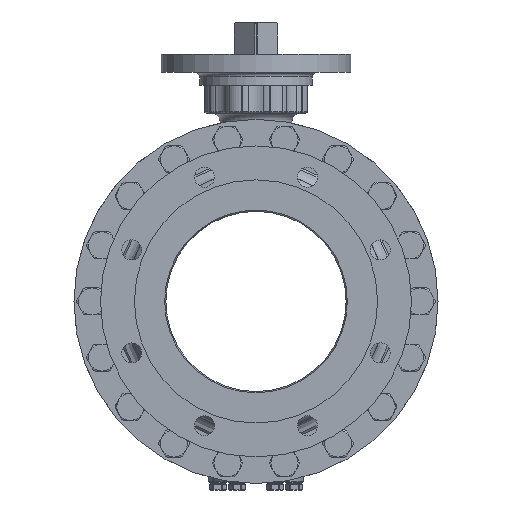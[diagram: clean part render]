
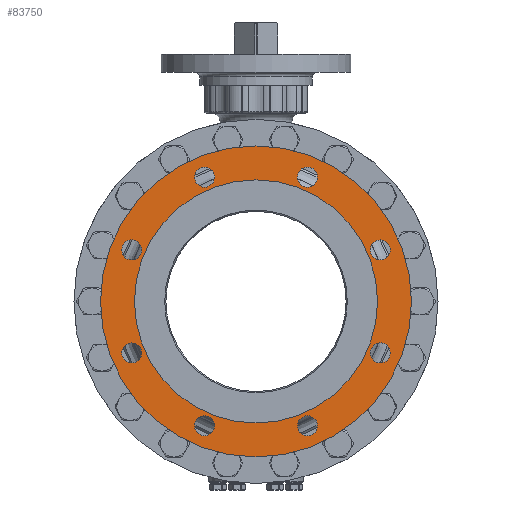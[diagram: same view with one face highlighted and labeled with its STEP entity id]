
A CAD part, left-side view. The second image highlights one B-rep face of the part: STEP entity #83750.
In plain terms, the highlighted planar face has unit normal (-1, 0, 0).
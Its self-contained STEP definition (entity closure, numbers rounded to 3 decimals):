
#10210=CARTESIAN_POINT('',(-227.,0.,0.));
#10211=DIRECTION('',(1.,0.,0.));
#10212=DIRECTION('',(0.,0.,1.));
#10213=AXIS2_PLACEMENT_3D('',#10210,#10211,#10212);
#10215=CARTESIAN_POINT('',(-227.,0.,0.));
#10216=DIRECTION('',(-1.,0.,0.));
#10217=DIRECTION('',(0.,0.,1.));
#10218=AXIS2_PLACEMENT_3D('',#10215,#10216,#10217);
#10220=CARTESIAN_POINT('',(-227.,0.,0.));
#10221=DIRECTION('',(1.,0.,0.));
#10222=DIRECTION('',(0.,0.,1.));
#10223=AXIS2_PLACEMENT_3D('',#10220,#10221,#10222);
#10225=CARTESIAN_POINT('',(-227.,0.,0.));
#10226=DIRECTION('',(-1.,0.,0.));
#10227=DIRECTION('',(0.,0.,1.));
#10228=AXIS2_PLACEMENT_3D('',#10225,#10226,#10227);
#10230=CARTESIAN_POINT('',(-227.,57.116,137.889));
#10231=DIRECTION('',(-1.,0.,0.));
#10232=DIRECTION('',(0.,-1.,0.));
#10233=AXIS2_PLACEMENT_3D('',#10230,#10231,#10232);
#10235=CARTESIAN_POINT('',(-227.,57.116,137.889));
#10236=DIRECTION('',(-1.,0.,0.));
#10237=DIRECTION('',(0.,1.,0.));
#10238=AXIS2_PLACEMENT_3D('',#10235,#10236,#10237);
#10240=CARTESIAN_POINT('',(-227.,137.889,57.116));
#10241=DIRECTION('',(-1.,0.,0.));
#10242=DIRECTION('',(0.,-0.707,0.707));
#10243=AXIS2_PLACEMENT_3D('',#10240,#10241,#10242);
#10245=CARTESIAN_POINT('',(-227.,137.889,57.116));
#10246=DIRECTION('',(-1.,0.,0.));
#10247=DIRECTION('',(0.,0.707,-0.707));
#10248=AXIS2_PLACEMENT_3D('',#10245,#10246,#10247);
#10250=CARTESIAN_POINT('',(-227.,137.889,-57.116));
#10251=DIRECTION('',(-1.,0.,0.));
#10252=DIRECTION('',(0.,0.,1.));
#10253=AXIS2_PLACEMENT_3D('',#10250,#10251,#10252);
#10255=CARTESIAN_POINT('',(-227.,137.889,-57.116));
#10256=DIRECTION('',(-1.,0.,0.));
#10257=DIRECTION('',(0.,0.,-1.));
#10258=AXIS2_PLACEMENT_3D('',#10255,#10256,#10257);
#10260=CARTESIAN_POINT('',(-227.,57.116,-137.889));
#10261=DIRECTION('',(-1.,0.,0.));
#10262=DIRECTION('',(0.,0.707,0.707));
#10263=AXIS2_PLACEMENT_3D('',#10260,#10261,#10262);
#10265=CARTESIAN_POINT('',(-227.,57.116,-137.889));
#10266=DIRECTION('',(-1.,0.,0.));
#10267=DIRECTION('',(0.,-0.707,-0.707));
#10268=AXIS2_PLACEMENT_3D('',#10265,#10266,#10267);
#10270=CARTESIAN_POINT('',(-227.,-57.116,-137.889));
#10271=DIRECTION('',(-1.,0.,0.));
#10272=DIRECTION('',(0.,1.,0.));
#10273=AXIS2_PLACEMENT_3D('',#10270,#10271,#10272);
#10275=CARTESIAN_POINT('',(-227.,-57.116,-137.889));
#10276=DIRECTION('',(-1.,0.,0.));
#10277=DIRECTION('',(0.,-1.,0.));
#10278=AXIS2_PLACEMENT_3D('',#10275,#10276,#10277);
#10280=CARTESIAN_POINT('',(-227.,-137.889,-57.116));
#10281=DIRECTION('',(-1.,0.,0.));
#10282=DIRECTION('',(0.,0.707,-0.707));
#10283=AXIS2_PLACEMENT_3D('',#10280,#10281,#10282);
#10285=CARTESIAN_POINT('',(-227.,-137.889,-57.116));
#10286=DIRECTION('',(-1.,0.,0.));
#10287=DIRECTION('',(0.,-0.707,0.707));
#10288=AXIS2_PLACEMENT_3D('',#10285,#10286,#10287);
#10290=CARTESIAN_POINT('',(-227.,-137.889,57.116));
#10291=DIRECTION('',(-1.,0.,0.));
#10292=DIRECTION('',(0.,0.,-1.));
#10293=AXIS2_PLACEMENT_3D('',#10290,#10291,#10292);
#10295=CARTESIAN_POINT('',(-227.,-137.889,57.116));
#10296=DIRECTION('',(-1.,0.,0.));
#10297=DIRECTION('',(0.,0.,1.));
#10298=AXIS2_PLACEMENT_3D('',#10295,#10296,#10297);
#10300=CARTESIAN_POINT('',(-227.,-57.116,137.889));
#10301=DIRECTION('',(-1.,0.,0.));
#10302=DIRECTION('',(0.,-0.707,-0.707));
#10303=AXIS2_PLACEMENT_3D('',#10300,#10301,#10302);
#10305=CARTESIAN_POINT('',(-227.,-57.116,137.889));
#10306=DIRECTION('',(-1.,0.,0.));
#10307=DIRECTION('',(0.,0.707,0.707));
#10308=AXIS2_PLACEMENT_3D('',#10305,#10306,#10307);
#59501=CARTESIAN_POINT('',(-227.,0.,172.5));
#59503=VERTEX_POINT('',#59501);
#59509=CARTESIAN_POINT('',(-227.,0.,-172.5));
#59511=VERTEX_POINT('',#59509);
#59541=CARTESIAN_POINT('',(-227.,45.966,137.889));
#59542=VERTEX_POINT('',#59541);
#59543=CARTESIAN_POINT('',(-227.,68.266,137.889));
#59544=VERTEX_POINT('',#59543);
#59549=CARTESIAN_POINT('',(-227.,130.005,65.));
#59550=VERTEX_POINT('',#59549);
#59551=CARTESIAN_POINT('',(-227.,145.773,49.231));
#59552=VERTEX_POINT('',#59551);
#59557=CARTESIAN_POINT('',(-227.,137.889,-45.966));
#59558=VERTEX_POINT('',#59557);
#59559=CARTESIAN_POINT('',(-227.,137.889,-68.266));
#59560=VERTEX_POINT('',#59559);
#59565=CARTESIAN_POINT('',(-227.,65.,-130.005));
#59566=VERTEX_POINT('',#59565);
#59567=CARTESIAN_POINT('',(-227.,49.231,-145.773));
#59568=VERTEX_POINT('',#59567);
#59573=CARTESIAN_POINT('',(-227.,-45.966,-137.889));
#59574=VERTEX_POINT('',#59573);
#59575=CARTESIAN_POINT('',(-227.,-68.266,-137.889));
#59576=VERTEX_POINT('',#59575);
#59581=CARTESIAN_POINT('',(-227.,-130.005,-65.));
#59582=VERTEX_POINT('',#59581);
#59583=CARTESIAN_POINT('',(-227.,-145.773,-49.231));
#59584=VERTEX_POINT('',#59583);
#59589=CARTESIAN_POINT('',(-227.,-137.889,45.966));
#59590=VERTEX_POINT('',#59589);
#59591=CARTESIAN_POINT('',(-227.,-137.889,68.266));
#59592=VERTEX_POINT('',#59591);
#59597=CARTESIAN_POINT('',(-227.,-65.,130.005));
#59598=VERTEX_POINT('',#59597);
#59599=CARTESIAN_POINT('',(-227.,-49.231,145.773));
#59600=VERTEX_POINT('',#59599);
#59602=CARTESIAN_POINT('',(-227.,0.,134.85));
#59604=VERTEX_POINT('',#59602);
#59606=CARTESIAN_POINT('',(-227.,0.,-134.85));
#59608=VERTEX_POINT('',#59606);
#83687=CARTESIAN_POINT('',(-227.,0.,0.));
#83688=DIRECTION('',(-1.,0.,0.));
#83689=DIRECTION('',(0.,0.,-1.));
#83690=AXIS2_PLACEMENT_3D('',#83687,#83688,#83689);
#83691=PLANE('',#83690);
#83692=ORIENTED_EDGE('',*,*,#83680,.F.);
#83693=ORIENTED_EDGE('',*,*,#83669,.T.);
#83694=EDGE_LOOP('',(#83692,#83693));
#83695=FACE_OUTER_BOUND('',#83694,.F.);
#83697=ORIENTED_EDGE('',*,*,#83696,.F.);
#83699=ORIENTED_EDGE('',*,*,#83698,.T.);
#83700=EDGE_LOOP('',(#83697,#83699));
#83701=FACE_BOUND('',#83700,.F.);
#83703=ORIENTED_EDGE('',*,*,#83702,.T.);
#83705=ORIENTED_EDGE('',*,*,#83704,.T.);
#83706=EDGE_LOOP('',(#83703,#83705));
#83707=FACE_BOUND('',#83706,.F.);
#83709=ORIENTED_EDGE('',*,*,#83708,.T.);
#83711=ORIENTED_EDGE('',*,*,#83710,.T.);
#83712=EDGE_LOOP('',(#83709,#83711));
#83713=FACE_BOUND('',#83712,.F.);
#83715=ORIENTED_EDGE('',*,*,#83714,.T.);
#83717=ORIENTED_EDGE('',*,*,#83716,.T.);
#83718=EDGE_LOOP('',(#83715,#83717));
#83719=FACE_BOUND('',#83718,.F.);
#83721=ORIENTED_EDGE('',*,*,#83720,.T.);
#83723=ORIENTED_EDGE('',*,*,#83722,.T.);
#83724=EDGE_LOOP('',(#83721,#83723));
#83725=FACE_BOUND('',#83724,.F.);
#83727=ORIENTED_EDGE('',*,*,#83726,.T.);
#83729=ORIENTED_EDGE('',*,*,#83728,.T.);
#83730=EDGE_LOOP('',(#83727,#83729));
#83731=FACE_BOUND('',#83730,.F.);
#83733=ORIENTED_EDGE('',*,*,#83732,.T.);
#83735=ORIENTED_EDGE('',*,*,#83734,.T.);
#83736=EDGE_LOOP('',(#83733,#83735));
#83737=FACE_BOUND('',#83736,.F.);
#83739=ORIENTED_EDGE('',*,*,#83738,.T.);
#83741=ORIENTED_EDGE('',*,*,#83740,.T.);
#83742=EDGE_LOOP('',(#83739,#83741));
#83743=FACE_BOUND('',#83742,.F.);
#83745=ORIENTED_EDGE('',*,*,#83744,.T.);
#83747=ORIENTED_EDGE('',*,*,#83746,.T.);
#83748=EDGE_LOOP('',(#83745,#83747));
#83749=FACE_BOUND('',#83748,.F.);
#83750=ADVANCED_FACE('',(#83695,#83701,#83707,#83713,#83719,#83725,#83731,
#83737,#83743,#83749),#83691,.T.);
#10214=CIRCLE('',#10213,172.5);
#10219=CIRCLE('',#10218,172.5);
#10224=CIRCLE('',#10223,134.85);
#10229=CIRCLE('',#10228,134.85);
#10234=CIRCLE('',#10233,11.15);
#10239=CIRCLE('',#10238,11.15);
#10244=CIRCLE('',#10243,11.15);
#10249=CIRCLE('',#10248,11.15);
#10254=CIRCLE('',#10253,11.15);
#10259=CIRCLE('',#10258,11.15);
#10264=CIRCLE('',#10263,11.15);
#10269=CIRCLE('',#10268,11.15);
#10274=CIRCLE('',#10273,11.15);
#10279=CIRCLE('',#10278,11.15);
#10284=CIRCLE('',#10283,11.15);
#10289=CIRCLE('',#10288,11.15);
#10294=CIRCLE('',#10293,11.15);
#10299=CIRCLE('',#10298,11.15);
#10304=CIRCLE('',#10303,11.15);
#10309=CIRCLE('',#10308,11.15);
#83669=EDGE_CURVE('',#59503,#59511,#10214,.T.);
#83680=EDGE_CURVE('',#59503,#59511,#10219,.T.);
#83696=EDGE_CURVE('',#59604,#59608,#10224,.T.);
#83698=EDGE_CURVE('',#59604,#59608,#10229,.T.);
#83702=EDGE_CURVE('',#59542,#59544,#10234,.T.);
#83704=EDGE_CURVE('',#59544,#59542,#10239,.T.);
#83708=EDGE_CURVE('',#59550,#59552,#10244,.T.);
#83710=EDGE_CURVE('',#59552,#59550,#10249,.T.);
#83714=EDGE_CURVE('',#59558,#59560,#10254,.T.);
#83716=EDGE_CURVE('',#59560,#59558,#10259,.T.);
#83720=EDGE_CURVE('',#59566,#59568,#10264,.T.);
#83722=EDGE_CURVE('',#59568,#59566,#10269,.T.);
#83726=EDGE_CURVE('',#59574,#59576,#10274,.T.);
#83728=EDGE_CURVE('',#59576,#59574,#10279,.T.);
#83732=EDGE_CURVE('',#59582,#59584,#10284,.T.);
#83734=EDGE_CURVE('',#59584,#59582,#10289,.T.);
#83738=EDGE_CURVE('',#59590,#59592,#10294,.T.);
#83740=EDGE_CURVE('',#59592,#59590,#10299,.T.);
#83744=EDGE_CURVE('',#59598,#59600,#10304,.T.);
#83746=EDGE_CURVE('',#59600,#59598,#10309,.T.);
